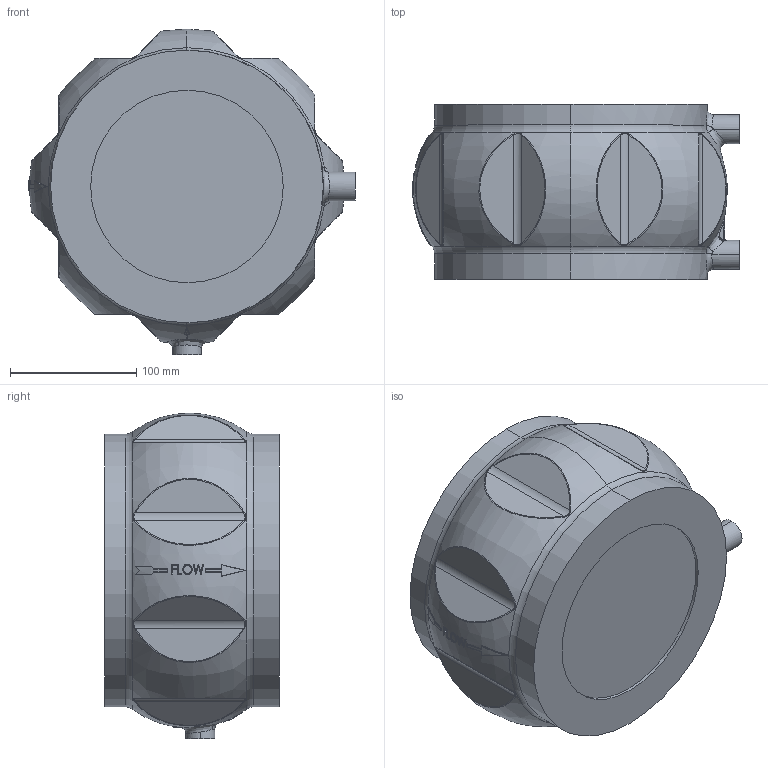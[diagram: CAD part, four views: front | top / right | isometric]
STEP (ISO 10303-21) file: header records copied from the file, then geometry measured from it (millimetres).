
FILE_DESCRIPTION (( 'STEP AP203' ), '1' );
FILE_NAME ('6in 100-42 Roll Seal Main Valve, 150WB.STEP', '2023-11-27T22:11:42', ( '' ), ( '' ), 'SwSTEP 2.0', 'SolidWorks 2022', '' );
FILE_SCHEMA (( 'CONFIG_CONTROL_DESIGN' ));
Length unit declared in the file: inch
Products named in the file (1): 6in 100-42 Roll Seal Main Valve, 150WB
Bounding box: 258.69 x 138.43 x 257.94 mm (x, y, z)
Volume: 5418615 mm3; surface area: 220160.2 mm2
Topology: 1 solids, 1 shells, 671 faces, 1648 edges, 1021 vertices
Faces by surface type: plane 205, cylinder 202, torus 131, bspline 117, cone 12, sphere 4
Entity records: 29924 total; most frequent: CARTESIAN_POINT 14903, ORIENTED_EDGE 3288, DIRECTION 2939, EDGE_CURVE 1644, AXIS2_PLACEMENT_3D 1203, VERTEX_POINT 1021, EDGE_LOOP 717, FACE_OUTER_BOUND 671
